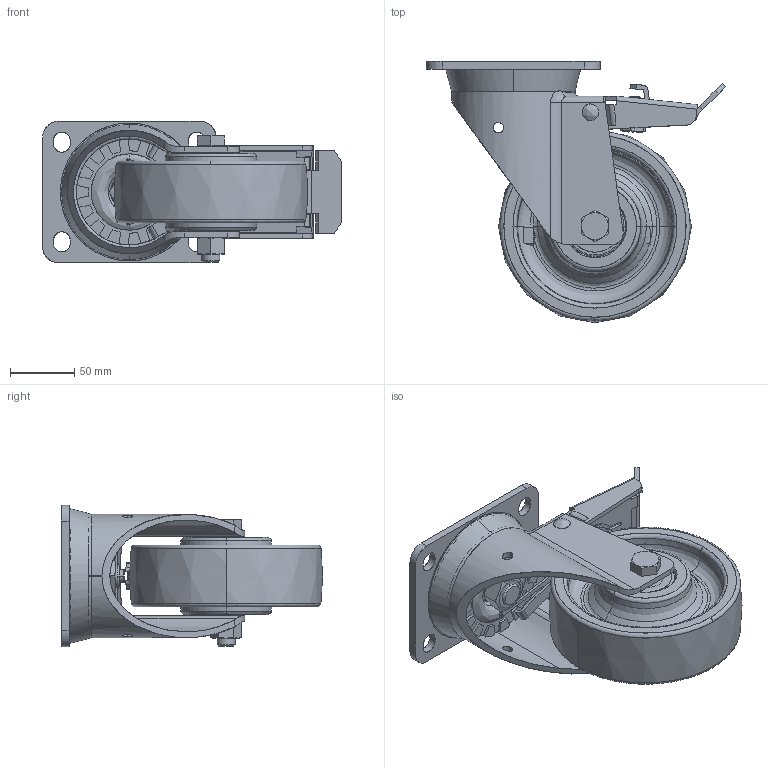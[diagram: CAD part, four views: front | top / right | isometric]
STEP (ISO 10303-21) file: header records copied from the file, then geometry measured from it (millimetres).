
FILE_DESCRIPTION(('STEP AP203'),'2;1');
FILE_NAME('17867FR_CL.stp','2010-04-29T12:04:28',(''),(''),'2009.1.108','THINKDESIGN','');
FILE_SCHEMA(('CONFIG_CONTROL_DESIGN'));
Bounding box: 232.51 x 203 x 110 mm (x, y, z)
Volume: 49554.7 mm3; surface area: 236267.1 mm2
Topology: 5 solids, 5 shells, 642 faces, 3398 edges, 3318 vertices
Faces by surface type: plane 298, bspline 176, cylinder 168
Full cylindrical faces by diameter (mm): 11.834 x2, 14 x2, 15 x1, 19.37 x2, 20 x1
Entity records: 39857 total; most frequent: CARTESIAN_POINT 23158, DIRECTION 3398, COMPOSITE_CURVE_SEGMENT 3182, TRIMMED_CURVE 1923, VECTOR 1664, LINE 1664, AXIS2_PLACEMENT_3D 867, B_SPLINE_CURVE_WITH_KNOTS 640
